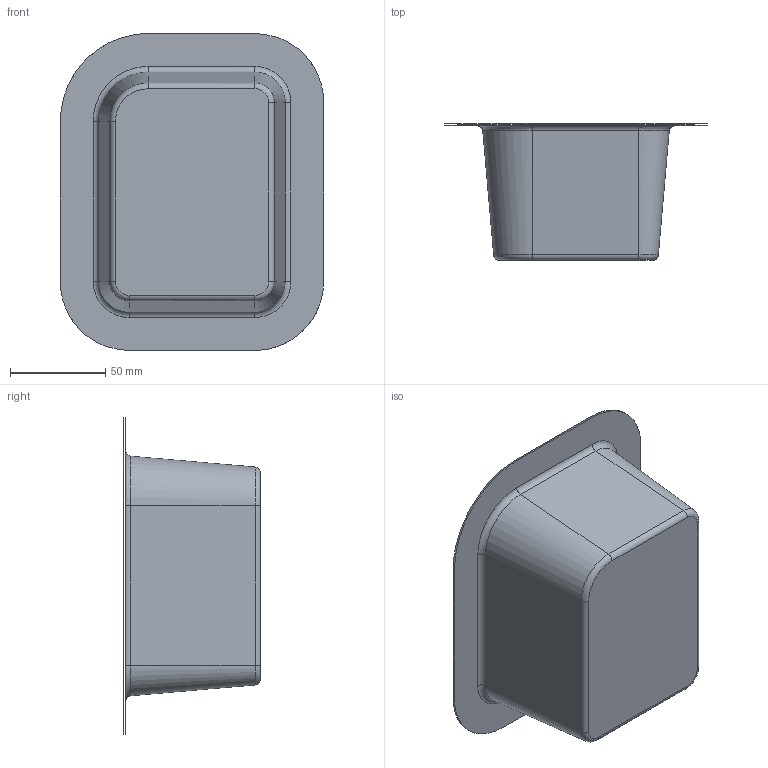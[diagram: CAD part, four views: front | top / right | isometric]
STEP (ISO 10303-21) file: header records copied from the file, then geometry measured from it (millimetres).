
FILE_DESCRIPTION(('CATIA V5 STEP Exchange'),'2;1');
FILE_NAME('C:\_Andres\UNIVERSIDAD\IQS\ASIGNATURAS\DAO\Controles\1617\c3\2inicio\Homs_Menis_control3_v14.stp','2017-02-17T14:22:06+00:00',('none'),('none'),'CATIA Version 5-6 Release 2014 SP1 HF18','CATIA V5 STEP AP203','none');
FILE_SCHEMA(('CONFIG_CONTROL_DESIGN'));
Length unit declared in the file: millimetre
Products named in the file (1): Homs_Menis_control3_v14
Bounding box: 138.38 x 71.73 x 166.38 mm (x, y, z)
Surface area: 68403.3 mm2 (no closed solid volume)
Topology: 0 solids, 2 shells, 27 faces, 80 edges, 57 vertices
Faces by surface type: bspline 16, cylinder 8, plane 3
Entity records: 1907 total; most frequent: CARTESIAN_POINT 1311, ORIENTED_EDGE 128, EDGE_CURVE 72, B_SPLINE_CURVE_WITH_KNOTS 54, DIRECTION 50, VERTEX_POINT 48, EDGE_LOOP 28, ADVANCED_FACE 27
